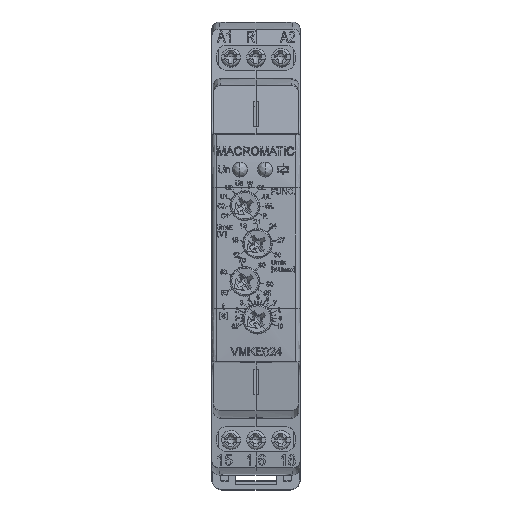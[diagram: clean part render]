
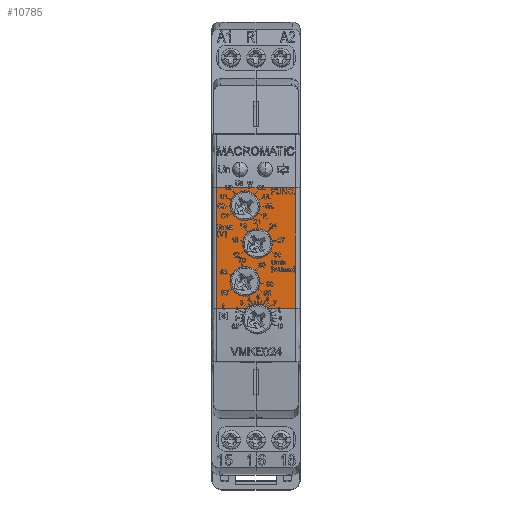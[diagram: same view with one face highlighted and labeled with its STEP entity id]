
A CAD part, top view. The second image highlights one B-rep face of the part: STEP entity #10785.
In plain terms, the highlighted planar face has unit normal (0, 0, 1).
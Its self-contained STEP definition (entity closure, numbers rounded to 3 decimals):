
#10186 = VERTEX_POINT('',#10187);
#10187 = CARTESIAN_POINT('',(-7.8,-12.15,
    64.));
#10286 = VERTEX_POINT('',#10287);
#10287 = CARTESIAN_POINT('',(-7.8,11.85,
    64.));
#10365 = EDGE_CURVE('',#10186,#10286,#10366,.T.);
#10366 = B_SPLINE_CURVE_WITH_KNOTS('',1,(#10367,#10368),.UNSPECIFIED.,
  .F.,.F.,(2,2),(-24.,0.),
  .PIECEWISE_BEZIER_KNOTS.);
#10367 = CARTESIAN_POINT('',(-7.8,-12.15,
    64.));
#10368 = CARTESIAN_POINT('',(-7.8,11.85,
    64.));
#10421 = VERTEX_POINT('',#10422);
#10422 = CARTESIAN_POINT('',(7.8,11.85,
    64.));
#10477 = EDGE_CURVE('',#10421,#10478,#10480,.T.);
#10478 = VERTEX_POINT('',#10479);
#10479 = CARTESIAN_POINT('',(7.8,-12.15,
    64.));
#10480 = B_SPLINE_CURVE_WITH_KNOTS('',1,(#10481,#10482),.UNSPECIFIED.,
  .F.,.F.,(2,2),(-24.,0.),
  .PIECEWISE_BEZIER_KNOTS.);
#10481 = CARTESIAN_POINT('',(7.8,11.85,
    64.));
#10482 = CARTESIAN_POINT('',(7.8,-12.15,
    64.));
#10580 = VERTEX_POINT('',#10581);
#10581 = CARTESIAN_POINT('',(2.407,-12.15,
    64.));
#10602 = VERTEX_POINT('',#10603);
#10603 = CARTESIAN_POINT('',(-1.807,-12.15,
    64.));
#10610 = EDGE_CURVE('',#10602,#10186,#10611,.T.);
#10611 = B_SPLINE_CURVE_WITH_KNOTS('',1,(#10612,#10613),.UNSPECIFIED.,
  .F.,.F.,(2,2),(16.133,22.126),
  .PIECEWISE_BEZIER_KNOTS.);
#10612 = CARTESIAN_POINT('',(-1.807,-12.15,
    64.));
#10613 = CARTESIAN_POINT('',(-7.8,-12.15,
    64.));
#10622 = EDGE_CURVE('',#10478,#10580,#10623,.T.);
#10623 = B_SPLINE_CURVE_WITH_KNOTS('',1,(#10624,#10625),.UNSPECIFIED.,
  .F.,.F.,(2,2),(6.526,11.918),
  .PIECEWISE_BEZIER_KNOTS.);
#10624 = CARTESIAN_POINT('',(7.8,-12.15,
    64.));
#10625 = CARTESIAN_POINT('',(2.407,-12.15,
    64.));
#10724 = EDGE_CURVE('',#10286,#10421,#10725,.T.);
#10725 = B_SPLINE_CURVE_WITH_KNOTS('',1,(#10726,#10727),.UNSPECIFIED.,
  .F.,.F.,(2,2),(-22.126,-6.526),
  .PIECEWISE_BEZIER_KNOTS.);
#10726 = CARTESIAN_POINT('',(-7.8,11.85,
    64.));
#10727 = CARTESIAN_POINT('',(7.8,11.85,
    64.));
#10785 = ADVANCED_FACE('',(#10786,#10801,#10823,#10845),#10867,.T.);
#10786 = FACE_BOUND('',#10787,.T.);
#10787 = EDGE_LOOP('',(#10788,#10796,#10797,#10798,#10799,#10800));
#10788 = ORIENTED_EDGE('',*,*,#10789,.T.);
#10789 = EDGE_CURVE('',#10602,#10580,#10790,.T.);
#10790 = ( BOUNDED_CURVE() B_SPLINE_CURVE(2,(#10791,#10792,#10793,#10794
,#10795),.UNSPECIFIED.,.F.,.F.) B_SPLINE_CURVE_WITH_KNOTS((3,2,3),(
2.331,4.673,7.015),.UNSPECIFIED.) CURVE() 
GEOMETRIC_REPRESENTATION_ITEM() RATIONAL_B_SPLINE_CURVE((1.,
0.924,1.,0.924,1.)) REPRESENTATION_ITEM('') );
#10791 = CARTESIAN_POINT('',(-1.807,-12.15,
    64.));
#10792 = CARTESIAN_POINT('',(-0.935,-11.275,
    64.));
#10793 = CARTESIAN_POINT('',(0.3,-11.275,
    64.));
#10794 = CARTESIAN_POINT('',(1.535,-11.275,
    64.));
#10795 = CARTESIAN_POINT('',(2.407,-12.15,
    64.));
#10796 = ORIENTED_EDGE('',*,*,#10622,.F.);
#10797 = ORIENTED_EDGE('',*,*,#10477,.F.);
#10798 = ORIENTED_EDGE('',*,*,#10724,.F.);
#10799 = ORIENTED_EDGE('',*,*,#10365,.F.);
#10800 = ORIENTED_EDGE('',*,*,#10610,.F.);
#10801 = FACE_BOUND('',#10802,.T.);
#10802 = EDGE_LOOP('',(#10803,#10815));
#10803 = ORIENTED_EDGE('',*,*,#10804,.T.);
#10804 = EDGE_CURVE('',#10805,#10807,#10809,.T.);
#10805 = VERTEX_POINT('',#10806);
#10806 = CARTESIAN_POINT('',(-5.175,-6.75,64.));
#10807 = VERTEX_POINT('',#10808);
#10808 = CARTESIAN_POINT('',(0.775,-6.75,64.));
#10809 = ( BOUNDED_CURVE() B_SPLINE_CURVE(2,(#10810,#10811,#10812,#10813
,#10814),.UNSPECIFIED.,.F.,.F.) B_SPLINE_CURVE_WITH_KNOTS((3,2,3),(0.,
4.673,9.346),.PIECEWISE_BEZIER_KNOTS.) CURVE() 
GEOMETRIC_REPRESENTATION_ITEM() RATIONAL_B_SPLINE_CURVE((1.,
0.707,1.,0.707,1.)) REPRESENTATION_ITEM('') );
#10810 = CARTESIAN_POINT('',(-5.175,-6.75,64.));
#10811 = CARTESIAN_POINT('',(-5.175,-3.775,64.));
#10812 = CARTESIAN_POINT('',(-2.2,-3.775,64.));
#10813 = CARTESIAN_POINT('',(0.775,-3.775,64.));
#10814 = CARTESIAN_POINT('',(0.775,-6.75,64.));
#10815 = ORIENTED_EDGE('',*,*,#10816,.T.);
#10816 = EDGE_CURVE('',#10807,#10805,#10817,.T.);
#10817 = ( BOUNDED_CURVE() B_SPLINE_CURVE(2,(#10818,#10819,#10820,#10821
,#10822),.UNSPECIFIED.,.F.,.F.) B_SPLINE_CURVE_WITH_KNOTS((3,2,3),(0.,
4.673,9.346),.PIECEWISE_BEZIER_KNOTS.) CURVE() 
GEOMETRIC_REPRESENTATION_ITEM() RATIONAL_B_SPLINE_CURVE((1.,
0.707,1.,0.707,1.)) REPRESENTATION_ITEM('') );
#10818 = CARTESIAN_POINT('',(0.775,-6.75,64.));
#10819 = CARTESIAN_POINT('',(0.775,-9.725,64.));
#10820 = CARTESIAN_POINT('',(-2.2,-9.725,64.));
#10821 = CARTESIAN_POINT('',(-5.175,-9.725,64.));
#10822 = CARTESIAN_POINT('',(-5.175,-6.75,64.));
#10823 = FACE_BOUND('',#10824,.T.);
#10824 = EDGE_LOOP('',(#10825,#10837));
#10825 = ORIENTED_EDGE('',*,*,#10826,.T.);
#10826 = EDGE_CURVE('',#10827,#10829,#10831,.T.);
#10827 = VERTEX_POINT('',#10828);
#10828 = CARTESIAN_POINT('',(-5.175,8.25,64.));
#10829 = VERTEX_POINT('',#10830);
#10830 = CARTESIAN_POINT('',(0.775,8.25,64.));
#10831 = ( BOUNDED_CURVE() B_SPLINE_CURVE(2,(#10832,#10833,#10834,#10835
,#10836),.UNSPECIFIED.,.F.,.F.) B_SPLINE_CURVE_WITH_KNOTS((3,2,3),(0.,
4.673,9.346),.PIECEWISE_BEZIER_KNOTS.) CURVE() 
GEOMETRIC_REPRESENTATION_ITEM() RATIONAL_B_SPLINE_CURVE((1.,
0.707,1.,0.707,1.)) REPRESENTATION_ITEM('') );
#10832 = CARTESIAN_POINT('',(-5.175,8.25,64.));
#10833 = CARTESIAN_POINT('',(-5.175,11.225,64.));
#10834 = CARTESIAN_POINT('',(-2.2,11.225,64.));
#10835 = CARTESIAN_POINT('',(0.775,11.225,64.));
#10836 = CARTESIAN_POINT('',(0.775,8.25,64.));
#10837 = ORIENTED_EDGE('',*,*,#10838,.T.);
#10838 = EDGE_CURVE('',#10829,#10827,#10839,.T.);
#10839 = ( BOUNDED_CURVE() B_SPLINE_CURVE(2,(#10840,#10841,#10842,#10843
,#10844),.UNSPECIFIED.,.F.,.F.) B_SPLINE_CURVE_WITH_KNOTS((3,2,3),(0.,
4.673,9.346),.PIECEWISE_BEZIER_KNOTS.) CURVE() 
GEOMETRIC_REPRESENTATION_ITEM() RATIONAL_B_SPLINE_CURVE((1.,
0.707,1.,0.707,1.)) REPRESENTATION_ITEM('') );
#10840 = CARTESIAN_POINT('',(0.775,8.25,64.));
#10841 = CARTESIAN_POINT('',(0.775,5.275,64.));
#10842 = CARTESIAN_POINT('',(-2.2,5.275,64.));
#10843 = CARTESIAN_POINT('',(-5.175,5.275,64.));
#10844 = CARTESIAN_POINT('',(-5.175,8.25,64.));
#10845 = FACE_BOUND('',#10846,.T.);
#10846 = EDGE_LOOP('',(#10847,#10859));
#10847 = ORIENTED_EDGE('',*,*,#10848,.T.);
#10848 = EDGE_CURVE('',#10849,#10851,#10853,.T.);
#10849 = VERTEX_POINT('',#10850);
#10850 = CARTESIAN_POINT('',(3.275,0.75,64.));
#10851 = VERTEX_POINT('',#10852);
#10852 = CARTESIAN_POINT('',(-2.675,0.75,64.));
#10853 = ( BOUNDED_CURVE() B_SPLINE_CURVE(2,(#10854,#10855,#10856,#10857
,#10858),.UNSPECIFIED.,.F.,.F.) B_SPLINE_CURVE_WITH_KNOTS((3,2,3),(0.,
4.673,9.346),.PIECEWISE_BEZIER_KNOTS.) CURVE() 
GEOMETRIC_REPRESENTATION_ITEM() RATIONAL_B_SPLINE_CURVE((1.,
0.707,1.,0.707,1.)) REPRESENTATION_ITEM('') );
#10854 = CARTESIAN_POINT('',(3.275,0.75,64.));
#10855 = CARTESIAN_POINT('',(3.275,-2.225,64.));
#10856 = CARTESIAN_POINT('',(0.3,-2.225,64.));
#10857 = CARTESIAN_POINT('',(-2.675,-2.225,64.));
#10858 = CARTESIAN_POINT('',(-2.675,0.75,64.));
#10859 = ORIENTED_EDGE('',*,*,#10860,.T.);
#10860 = EDGE_CURVE('',#10851,#10849,#10861,.T.);
#10861 = ( BOUNDED_CURVE() B_SPLINE_CURVE(2,(#10862,#10863,#10864,#10865
,#10866),.UNSPECIFIED.,.F.,.F.) B_SPLINE_CURVE_WITH_KNOTS((3,2,3),(0.,
4.673,9.346),.PIECEWISE_BEZIER_KNOTS.) CURVE() 
GEOMETRIC_REPRESENTATION_ITEM() RATIONAL_B_SPLINE_CURVE((1.,
0.707,1.,0.707,1.)) REPRESENTATION_ITEM('') );
#10862 = CARTESIAN_POINT('',(-2.675,0.75,64.));
#10863 = CARTESIAN_POINT('',(-2.675,3.725,64.));
#10864 = CARTESIAN_POINT('',(0.3,3.725,64.));
#10865 = CARTESIAN_POINT('',(3.275,3.725,64.));
#10866 = CARTESIAN_POINT('',(3.275,0.75,64.));
#10867 = PLANE('',#10868);
#10868 = AXIS2_PLACEMENT_3D('',#10869,#10870,#10871);
#10869 = CARTESIAN_POINT('',(9.48,-14.67,
    64.));
#10870 = DIRECTION('',(0.,0.,1.));
#10871 = DIRECTION('',(1.,0.,-0.));
